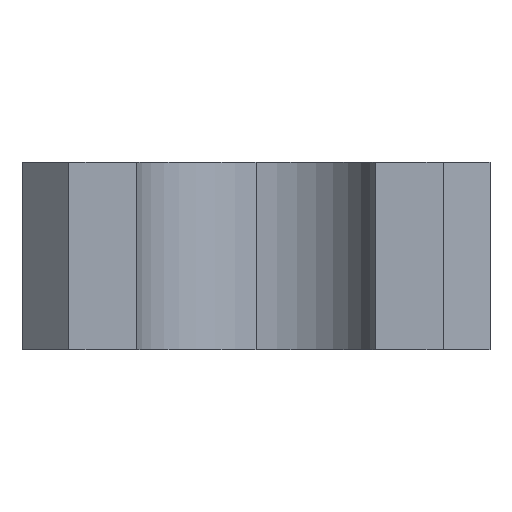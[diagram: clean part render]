
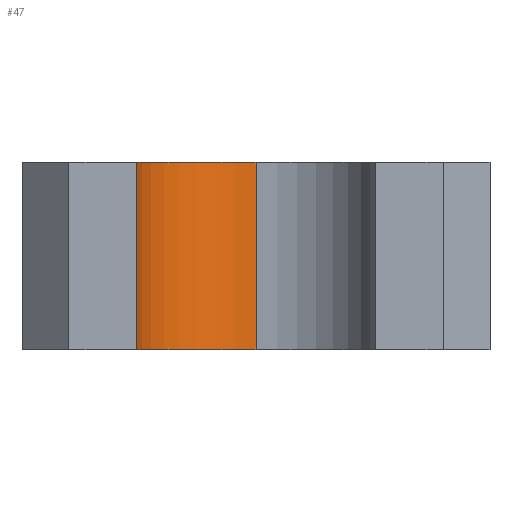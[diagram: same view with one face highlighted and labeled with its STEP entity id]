
A CAD part, left-side view. The second image highlights one B-rep face of the part: STEP entity #47.
In plain terms, the highlighted cylindrical face has radius 1.3 mm (diameter 2.6 mm), a partial arc.
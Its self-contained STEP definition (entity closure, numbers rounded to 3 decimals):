
#47=ADVANCED_FACE('NONE',(#233),#234,.F.);
#233=FACE_OUTER_BOUND('',#769,.T.);
#234=CYLINDRICAL_SURFACE('',#770,1.3);
#769=EDGE_LOOP('',(#1310,#1311,#1312,#1313));
#770=AXIS2_PLACEMENT_3D('',#1314,#1315,#1316);
#1310=ORIENTED_EDGE('',*,*,#2951,.F.);
#1311=ORIENTED_EDGE('',*,*,#2952,.T.);
#1312=ORIENTED_EDGE('',*,*,#2953,.T.);
#1313=ORIENTED_EDGE('',*,*,#2954,.T.);
#1314=CARTESIAN_POINT('',(-215.9,-4.475,14.95));
#1315=DIRECTION('',(0.0,0.0,-1.0));
#1316=DIRECTION('',(1.0,0.0,0.0));
#2951=EDGE_CURVE('NONE',#3501,#3502,#3503,.T.);
#2952=EDGE_CURVE('NONE',#3501,#3504,#3505,.T.);
#2953=EDGE_CURVE('NONE',#3504,#3506,#3507,.T.);
#2954=EDGE_CURVE('NONE',#3506,#3502,#3508,.T.);
#3501=VERTEX_POINT('NONE',#4413);
#3502=VERTEX_POINT('NONE',#4414);
#3503=CIRCLE('',#4415,1.3);
#3504=VERTEX_POINT('NONE',#4416);
#3505=LINE('',#4417,#4418);
#3506=VERTEX_POINT('NONE',#4419);
#3507=CIRCLE('',#4420,1.3);
#3508=LINE('',#4421,#4422);
#4413=CARTESIAN_POINT('',(-214.6,-4.475,12.95));
#4414=CARTESIAN_POINT('',(-215.65,-3.199,12.95));
#4415=AXIS2_PLACEMENT_3D('',#5523,#5524,#5525);
#4416=CARTESIAN_POINT('',(-214.6,-4.475,14.95));
#4417=CARTESIAN_POINT('',(-214.6,-4.475,14.95));
#4418=VECTOR('',#5526,1000.0);
#4419=CARTESIAN_POINT('',(-215.65,-3.199,14.95));
#4420=AXIS2_PLACEMENT_3D('',#5527,#5528,#5529);
#4421=CARTESIAN_POINT('',(-215.65,-3.199,14.95));
#4422=VECTOR('',#5530,1000.0);
#5523=CARTESIAN_POINT('',(-215.9,-4.475,12.95));
#5524=DIRECTION('',(0.0,0.0,1.0));
#5525=DIRECTION('',(1.0,0.0,0.0));
#5526=DIRECTION('',(-0.0,-0.0,1.0));
#5527=CARTESIAN_POINT('',(-215.9,-4.475,14.95));
#5528=DIRECTION('',(0.0,-0.0,1.0));
#5529=DIRECTION('',(1.0,0.0,0.0));
#5530=DIRECTION('',(0.0,0.0,-1.0));
